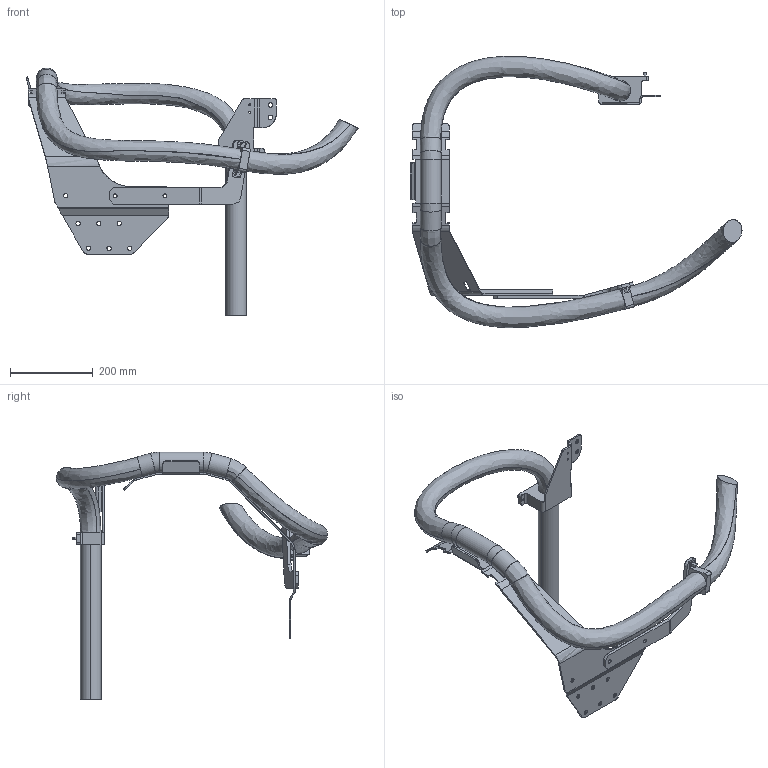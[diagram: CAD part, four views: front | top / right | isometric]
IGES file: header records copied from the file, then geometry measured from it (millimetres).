
Start section: SolidWorks IGES file using analytic representation for surfaces
Global section: file name: C:\DATA\SAP_DOC\LW\IRB 6730\IRB6730-MH3_240kg-290_OC_01_SW_J\Export\IRB6730-MH3_240kg-290_OC_01_IGES_J\IRB6730-MH3_240kg-290_OC_00_LINK01_CABLE.igs; native system: SolidWorks 2024; preprocessor: SolidWorks 2024; author: SEJOVAS3; date: 260526.113420; units: millimetre
Bounding box: 804.13 x 657.26 x 600.13 mm (x, y, z)
Surface area: 629878.5 mm2 (no closed solid volume)
Topology: 0 solids, 0 shells, 313 faces, 4364 edges, 4364 vertices
Faces by surface type: bspline 176, revolution 137
